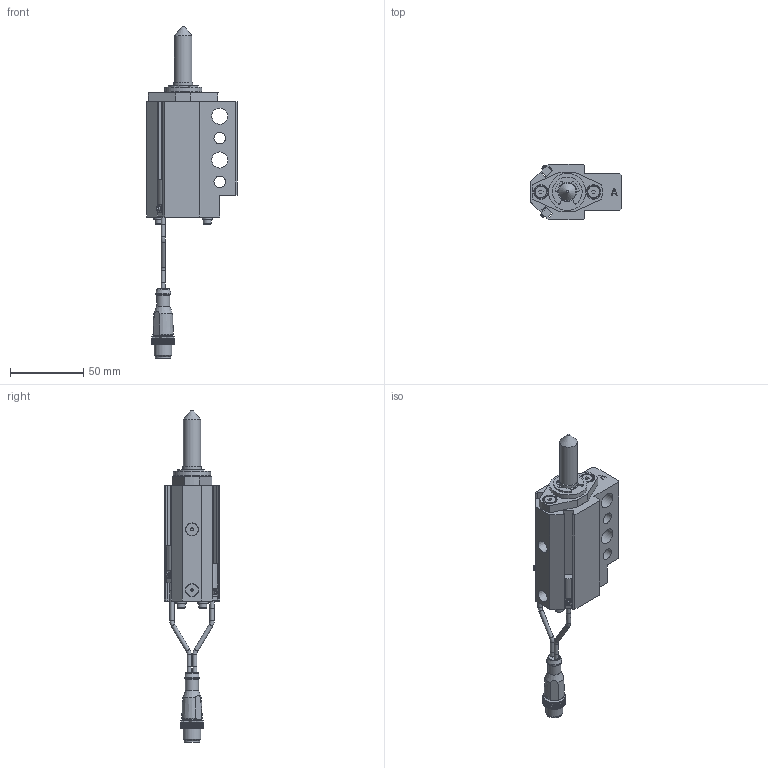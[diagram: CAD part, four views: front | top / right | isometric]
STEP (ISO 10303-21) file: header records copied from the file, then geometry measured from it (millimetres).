
FILE_DESCRIPTION(/* description */ ('NAAMS FLOATING MICRO PIN'),/* implementation_level */ '2;1');
FILE_NAME(/* name */ 'C:\Vault Workspace\CAD\Welker\Shot Pin\NMP\NMP120032AANL3.stp',/* time_stamp */ '2021-01-27T10:43:27-05:00',/* author */ ('WELKER'),/* organization */ (''),/* preprocessor_version */ 'ST-DEVELOPER v18.1',/* originating_system */ 'Autodesk Inventor 2020',/* authorisation */ '');
FILE_SCHEMA (('AUTOMOTIVE_DESIGN { 1 0 10303 214 3 1 1 }'));
Length unit declared in the file: millimetre
Products named in the file (16): NMPL01; NMP L3 SWITCH; L3 Connector; L3 Sensor 1; L3 Sensor 2; L3 Sensor cable; L3 Sensor cable 2; M3X0.5-8 SHCS; NL3; NMPE06; NMPE03; NMPE05-DIA-LENGTH; 985432A218; NMPE01A-PORT; RMPE02; M5X5 SHOULDER
Assembly tree (22 placements, depth 3):
  NMPL01
    NMP L3 SWITCH
      L3 Connector
      L3 Sensor 1
      L3 Sensor 2
      L3 Sensor cable
      L3 Sensor cable 2
    M3X0.5-8 SHCS  x4
    NL3  x4
    NMPE06
    NMPE03
    NMPE05-DIA-LENGTH
    985432A218
    NMPE01A-PORT
    RMPE02
    M5X5 SHOULDER  x2
Bounding box: 62 x 38.1 x 227.12 mm (x, y, z)
Volume: 111704.9 mm3; surface area: 46323.9 mm2
Topology: 21 solids, 21 shells, 744 faces, 2018 edges, 1349 vertices
Faces by surface type: plane 553, cylinder 144, cone 31, torus 11, sphere 3, bspline 2
Full cylindrical faces by diameter (mm): 2 x2, 2.459 x4, 2.9 x10, 3 x5, 3.242 x2, 3.4 x4, 4 x2, 5 x6, 5.5 x4, 7 x4, 8 x2, 8.3 x2, 9 x3, 10 x3, 10.4 x1, 10.5 x1, 11 x2, 12 x2, 13 x3, 16 x2, 19.05 x3, 21 x1, 22.5 x1, 23.672 x1, 24 x1, 25.4 x1, 25.5 x1, 26.5 x1, 28.677 x1, 29.21 x1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
Entity records: 22752 total; most frequent: CARTESIAN_POINT 4155, ORIENTED_EDGE 3734, DIRECTION 3717, EDGE_CURVE 1867, LINE 1383, VECTOR 1383, VERTEX_POINT 1254, AXIS2_PLACEMENT_3D 1167
